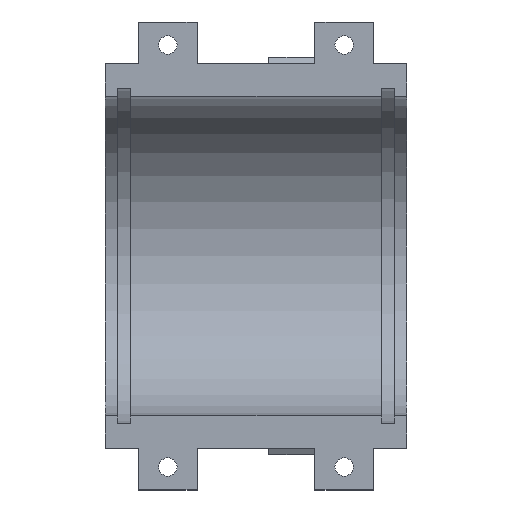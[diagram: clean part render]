
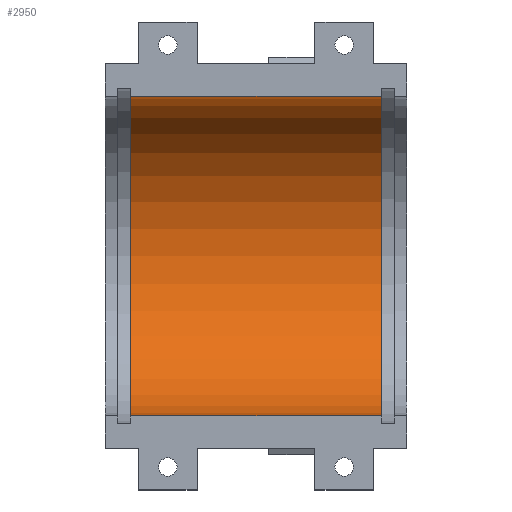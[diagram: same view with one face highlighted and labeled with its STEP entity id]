
A CAD part, top view. The second image highlights one B-rep face of the part: STEP entity #2950.
In plain terms, the highlighted cylindrical face has radius 38.25 mm (diameter 76.5 mm), a partial arc.
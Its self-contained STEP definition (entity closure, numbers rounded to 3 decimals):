
#44 = PLANE('',#45);
#45 = AXIS2_PLACEMENT_3D('',#46,#47,#48);
#46 = CARTESIAN_POINT('',(-200.,-200.,0.));
#47 = DIRECTION('',(0.,0.,1.));
#48 = DIRECTION('',(1.,0.,-0.));
#100 = PLANE('',#101);
#101 = AXIS2_PLACEMENT_3D('',#102,#103,#104);
#102 = CARTESIAN_POINT('',(-200.,-200.,0.));
#103 = DIRECTION('',(0.,0.,1.));
#104 = DIRECTION('',(1.,0.,-0.));
#942 = VERTEX_POINT('',#943);
#943 = CARTESIAN_POINT('',(31.1,38.25,0.));
#956 = PLANE('',#957);
#957 = AXIS2_PLACEMENT_3D('',#958,#959,#960);
#958 = CARTESIAN_POINT('',(31.1,0.,0.)
  );
#959 = DIRECTION('',(1.,0.,0.));
#960 = DIRECTION('',(-0.,0.,1.));
#967 = EDGE_CURVE('',#942,#968,#970,.T.);
#968 = VERTEX_POINT('',#969);
#969 = CARTESIAN_POINT('',(91.1,38.25,0.));
#970 = SURFACE_CURVE('',#971,(#975,#982),.PCURVE_S1.);
#971 = LINE('',#972,#973);
#972 = CARTESIAN_POINT('',(24.,38.25,0.));
#973 = VECTOR('',#974,1.);
#974 = DIRECTION('',(1.,0.,0.));
#975 = PCURVE('',#44,#976);
#976 = DEFINITIONAL_REPRESENTATION('',(#977),#981);
#977 = LINE('',#978,#979);
#978 = CARTESIAN_POINT('',(224.,238.25));
#979 = VECTOR('',#980,1.);
#980 = DIRECTION('',(1.,0.));
#981 = ( GEOMETRIC_REPRESENTATION_CONTEXT(2) 
PARAMETRIC_REPRESENTATION_CONTEXT() REPRESENTATION_CONTEXT('2D SPACE',''
  ) );
#982 = PCURVE('',#983,#988);
#983 = CYLINDRICAL_SURFACE('',#984,38.25);
#984 = AXIS2_PLACEMENT_3D('',#985,#986,#987);
#985 = CARTESIAN_POINT('',(24.,0.,0.));
#986 = DIRECTION('',(-1.,-0.,-0.));
#987 = DIRECTION('',(0.,1.,0.));
#988 = DEFINITIONAL_REPRESENTATION('',(#989),#993);
#989 = LINE('',#990,#991);
#990 = CARTESIAN_POINT('',(-6.283,0.));
#991 = VECTOR('',#992,1.);
#992 = DIRECTION('',(-0.,-1.));
#993 = ( GEOMETRIC_REPRESENTATION_CONTEXT(2) 
PARAMETRIC_REPRESENTATION_CONTEXT() REPRESENTATION_CONTEXT('2D SPACE',''
  ) );
#1010 = PLANE('',#1011);
#1011 = AXIS2_PLACEMENT_3D('',#1012,#1013,#1014);
#1012 = CARTESIAN_POINT('',(91.1,0.,0.)
  );
#1013 = DIRECTION('',(1.,0.,0.));
#1014 = DIRECTION('',(-0.,0.,1.));
#1741 = VERTEX_POINT('',#1742);
#1742 = CARTESIAN_POINT('',(91.1,-38.25,0.));
#1761 = EDGE_CURVE('',#1741,#1762,#1764,.T.);
#1762 = VERTEX_POINT('',#1763);
#1763 = CARTESIAN_POINT('',(31.1,-38.25,0.));
#1764 = SURFACE_CURVE('',#1765,(#1769,#1775),.PCURVE_S1.);
#1765 = LINE('',#1766,#1767);
#1766 = CARTESIAN_POINT('',(24.,-38.25,0.));
#1767 = VECTOR('',#1768,1.);
#1768 = DIRECTION('',(-1.,-0.,-0.));
#1769 = PCURVE('',#100,#1770);
#1770 = DEFINITIONAL_REPRESENTATION('',(#1771),#1774);
#1771 = B_SPLINE_CURVE_WITH_KNOTS('',1,(#1772,#1773),.UNSPECIFIED.,.F.,
  .F.,(2,2),(-67.1,-7.1),.PIECEWISE_BEZIER_KNOTS.);
#1772 = CARTESIAN_POINT('',(291.1,161.75));
#1773 = CARTESIAN_POINT('',(231.1,161.75));
#1774 = ( GEOMETRIC_REPRESENTATION_CONTEXT(2) 
PARAMETRIC_REPRESENTATION_CONTEXT() REPRESENTATION_CONTEXT('2D SPACE',''
  ) );
#1775 = PCURVE('',#983,#1776);
#1776 = DEFINITIONAL_REPRESENTATION('',(#1777),#1780);
#1777 = B_SPLINE_CURVE_WITH_KNOTS('',1,(#1778,#1779),.UNSPECIFIED.,.F.,
  .F.,(2,2),(-67.1,-7.1),.PIECEWISE_BEZIER_KNOTS.);
#1778 = CARTESIAN_POINT('',(-3.142,-67.1));
#1779 = CARTESIAN_POINT('',(-3.142,-7.1));
#1780 = ( GEOMETRIC_REPRESENTATION_CONTEXT(2) 
PARAMETRIC_REPRESENTATION_CONTEXT() REPRESENTATION_CONTEXT('2D SPACE',''
  ) );
#2924 = EDGE_CURVE('',#968,#1741,#2925,.T.);
#2925 = SURFACE_CURVE('',#2926,(#2931,#2942),.PCURVE_S1.);
#2926 = CIRCLE('',#2927,38.25);
#2927 = AXIS2_PLACEMENT_3D('',#2928,#2929,#2930);
#2928 = CARTESIAN_POINT('',(91.1,0.,0.));
#2929 = DIRECTION('',(-1.,0.,0.));
#2930 = DIRECTION('',(0.,1.,0.));
#2931 = PCURVE('',#1010,#2932);
#2932 = DEFINITIONAL_REPRESENTATION('',(#2933),#2941);
#2933 = ( BOUNDED_CURVE() B_SPLINE_CURVE(2,(#2934,#2935,#2936,#2937,
#2938,#2939,#2940),.UNSPECIFIED.,.T.,.F.) B_SPLINE_CURVE_WITH_KNOTS((1,2
    ,2,2,2,1),(-2.094,0.,2.094,4.189,
6.283,8.378),.UNSPECIFIED.) CURVE() 
GEOMETRIC_REPRESENTATION_ITEM() RATIONAL_B_SPLINE_CURVE((1.,0.5,1.,0.5,
1.,0.5,1.)) REPRESENTATION_ITEM('') );
#2934 = CARTESIAN_POINT('',(0.,-38.25));
#2935 = CARTESIAN_POINT('',(-66.251,-38.25));
#2936 = CARTESIAN_POINT('',(-33.125,19.125));
#2937 = CARTESIAN_POINT('',(0.,76.5));
#2938 = CARTESIAN_POINT('',(33.125,19.125));
#2939 = CARTESIAN_POINT('',(66.251,-38.25));
#2940 = CARTESIAN_POINT('',(0.,-38.25));
#2941 = ( GEOMETRIC_REPRESENTATION_CONTEXT(2) 
PARAMETRIC_REPRESENTATION_CONTEXT() REPRESENTATION_CONTEXT('2D SPACE',''
  ) );
#2942 = PCURVE('',#983,#2943);
#2943 = DEFINITIONAL_REPRESENTATION('',(#2944),#2948);
#2944 = LINE('',#2945,#2946);
#2945 = CARTESIAN_POINT('',(-6.283,-67.1));
#2946 = VECTOR('',#2947,1.);
#2947 = DIRECTION('',(1.,-0.));
#2948 = ( GEOMETRIC_REPRESENTATION_CONTEXT(2) 
PARAMETRIC_REPRESENTATION_CONTEXT() REPRESENTATION_CONTEXT('2D SPACE',''
  ) );
#2950 = ADVANCED_FACE('',(#2951),#983,.F.);
#2951 = FACE_BOUND('',#2952,.T.);
#2952 = EDGE_LOOP('',(#2953,#2954,#2980,#2981));
#2953 = ORIENTED_EDGE('',*,*,#967,.F.);
#2954 = ORIENTED_EDGE('',*,*,#2955,.T.);
#2955 = EDGE_CURVE('',#942,#1762,#2956,.T.);
#2956 = SURFACE_CURVE('',#2957,(#2962,#2969),.PCURVE_S1.);
#2957 = CIRCLE('',#2958,38.25);
#2958 = AXIS2_PLACEMENT_3D('',#2959,#2960,#2961);
#2959 = CARTESIAN_POINT('',(31.1,0.,0.));
#2960 = DIRECTION('',(-1.,0.,0.));
#2961 = DIRECTION('',(0.,1.,0.));
#2962 = PCURVE('',#983,#2963);
#2963 = DEFINITIONAL_REPRESENTATION('',(#2964),#2968);
#2964 = LINE('',#2965,#2966);
#2965 = CARTESIAN_POINT('',(-6.283,-7.1));
#2966 = VECTOR('',#2967,1.);
#2967 = DIRECTION('',(1.,-0.));
#2968 = ( GEOMETRIC_REPRESENTATION_CONTEXT(2) 
PARAMETRIC_REPRESENTATION_CONTEXT() REPRESENTATION_CONTEXT('2D SPACE',''
  ) );
#2969 = PCURVE('',#956,#2970);
#2970 = DEFINITIONAL_REPRESENTATION('',(#2971),#2979);
#2971 = ( BOUNDED_CURVE() B_SPLINE_CURVE(2,(#2972,#2973,#2974,#2975,
#2976,#2977,#2978),.UNSPECIFIED.,.T.,.F.) B_SPLINE_CURVE_WITH_KNOTS((1,2
    ,2,2,2,1),(-2.094,0.,2.094,4.189,
6.283,8.378),.UNSPECIFIED.) CURVE() 
GEOMETRIC_REPRESENTATION_ITEM() RATIONAL_B_SPLINE_CURVE((1.,0.5,1.,0.5,
1.,0.5,1.)) REPRESENTATION_ITEM('') );
#2972 = CARTESIAN_POINT('',(0.,-38.25));
#2973 = CARTESIAN_POINT('',(-66.251,-38.25));
#2974 = CARTESIAN_POINT('',(-33.125,19.125));
#2975 = CARTESIAN_POINT('',(0.,76.5));
#2976 = CARTESIAN_POINT('',(33.125,19.125));
#2977 = CARTESIAN_POINT('',(66.251,-38.25));
#2978 = CARTESIAN_POINT('',(0.,-38.25));
#2979 = ( GEOMETRIC_REPRESENTATION_CONTEXT(2) 
PARAMETRIC_REPRESENTATION_CONTEXT() REPRESENTATION_CONTEXT('2D SPACE',''
  ) );
#2980 = ORIENTED_EDGE('',*,*,#1761,.F.);
#2981 = ORIENTED_EDGE('',*,*,#2924,.F.);
